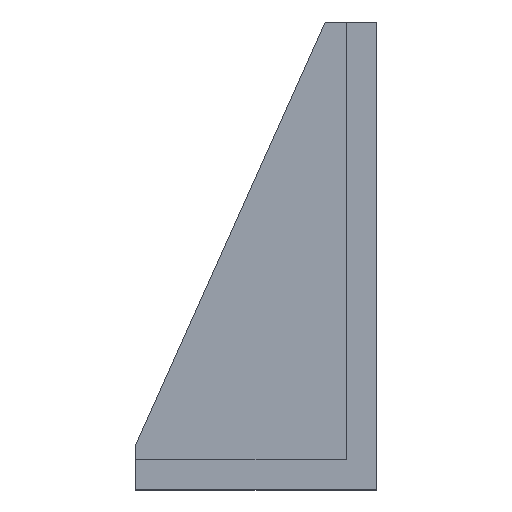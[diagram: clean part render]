
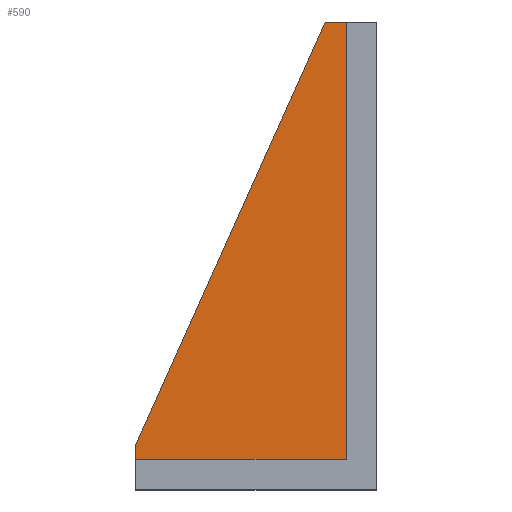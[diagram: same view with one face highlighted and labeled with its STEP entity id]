
A CAD part, top view. The second image highlights one B-rep face of the part: STEP entity #590.
In plain terms, the highlighted planar face has unit normal (0, 0, 1).
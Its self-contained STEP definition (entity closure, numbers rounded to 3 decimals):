
#8 = PLANE ( 'NONE',  #1284 ) ;
#87 = LINE ( 'NONE', #1502, #1651 ) ;
#90 = CARTESIAN_POINT ( 'NONE',  ( -10., 10., 74. ) ) ;
#149 = CARTESIAN_POINT ( 'NONE',  ( -80., 15., 74. ) ) ;
#241 = CARTESIAN_POINT ( 'NONE',  ( -80., 10., 74. ) ) ;
#274 = VERTEX_POINT ( 'NONE', #956 ) ;
#277 = LINE ( 'NONE', #1355, #1604 ) ;
#330 = VERTEX_POINT ( 'NONE', #822 ) ;
#346 = CARTESIAN_POINT ( 'NONE',  ( -10., 10., 74. ) ) ;
#360 = ORIENTED_EDGE ( 'NONE', *, *, #632, .T. ) ;
#377 = VERTEX_POINT ( 'NONE', #241 ) ;
#391 = CARTESIAN_POINT ( 'NONE',  ( -10., 155.5, 74. ) ) ;
#434 = CARTESIAN_POINT ( 'NONE',  ( -10., 155.5, 74. ) ) ;
#573 = DIRECTION ( 'NONE',  ( -1., 0., 0. ) ) ;
#590 = ADVANCED_FACE ( 'NONE', ( #999 ), #8, .F. ) ;
#632 = EDGE_CURVE ( 'NONE', #970, #1716, #277, .T. ) ;
#783 = VECTOR ( 'NONE', #1457, 1000. ) ;
#815 = EDGE_LOOP ( 'NONE', ( #892, #1873, #1403, #360, #861 ) ) ;
#822 = CARTESIAN_POINT ( 'NONE',  ( -17., 155.5, 74. ) ) ;
#861 = ORIENTED_EDGE ( 'NONE', *, *, #1033, .T. ) ;
#892 = ORIENTED_EDGE ( 'NONE', *, *, #1840, .T. ) ;
#899 = LINE ( 'NONE', #149, #1627 ) ;
#956 = CARTESIAN_POINT ( 'NONE',  ( -80., 15., 74. ) ) ;
#970 = VERTEX_POINT ( 'NONE', #90 ) ;
#999 = FACE_OUTER_BOUND ( 'NONE', #815, .T. ) ;
#1032 = CARTESIAN_POINT ( 'NONE',  ( 0., 0., 74. ) ) ;
#1033 = EDGE_CURVE ( 'NONE', #1716, #330, #1306, .T. ) ;
#1202 = DIRECTION ( 'NONE',  ( 0., 1., 0. ) ) ;
#1284 = AXIS2_PLACEMENT_3D ( 'NONE', #1032, #1346, #573 ) ;
#1306 = LINE ( 'NONE', #391, #783 ) ;
#1327 = EDGE_CURVE ( 'NONE', #274, #377, #899, .T. ) ;
#1346 = DIRECTION ( 'NONE',  ( 0., 0., -1. ) ) ;
#1355 = CARTESIAN_POINT ( 'NONE',  ( -10., 155.5, 74. ) ) ;
#1378 = DIRECTION ( 'NONE',  ( -0.409, -0.912, 0. ) ) ;
#1384 = EDGE_CURVE ( 'NONE', #377, #970, #1436, .T. ) ;
#1403 = ORIENTED_EDGE ( 'NONE', *, *, #1384, .T. ) ;
#1436 = LINE ( 'NONE', #346, #1829 ) ;
#1457 = DIRECTION ( 'NONE',  ( -1., 0., 0. ) ) ;
#1502 = CARTESIAN_POINT ( 'NONE',  ( -17., 155.5, 74. ) ) ;
#1517 = DIRECTION ( 'NONE',  ( 0., -1., 0. ) ) ;
#1604 = VECTOR ( 'NONE', #1202, 1000. ) ;
#1627 = VECTOR ( 'NONE', #1517, 1000. ) ;
#1651 = VECTOR ( 'NONE', #1378, 1000. ) ;
#1708 = DIRECTION ( 'NONE',  ( 1., 0., 0. ) ) ;
#1716 = VERTEX_POINT ( 'NONE', #434 ) ;
#1829 = VECTOR ( 'NONE', #1708, 1000. ) ;
#1840 = EDGE_CURVE ( 'NONE', #330, #274, #87, .T. ) ;
#1873 = ORIENTED_EDGE ( 'NONE', *, *, #1327, .T. ) ;
